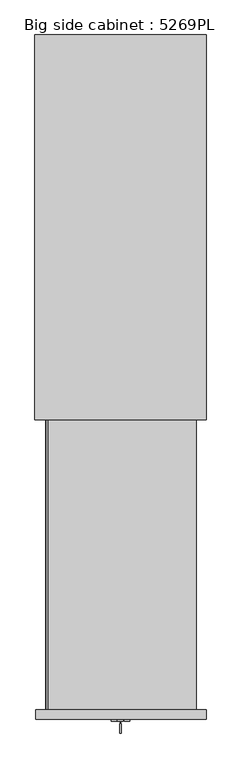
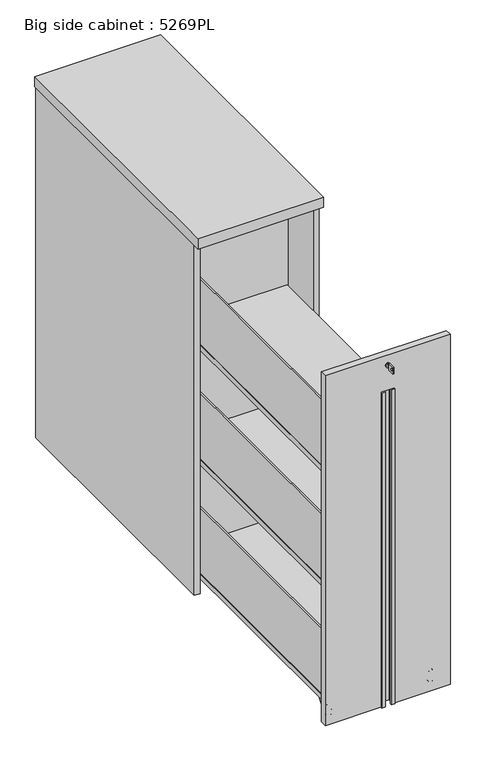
"""IFC4 building model written with IfcOpenShell, lengths in millimetres: furniture geometry, Big side cabinet : 5269PL."""

from ifc_helpers import new_model, si_unit, point, frame, frame_2d, origin, origin_with_axes, place, context, project, spatial, polyline, circle_curve, ellipse_curve, trimmed, segment, composite_curve, outline, extrude, source, transform, mapped, element, save
from ifc_brep_helpers import plane_surface, cylinder_surface, revolved_surface, advanced_brep


def big_side_cabinet_5269pl_a9c0dff1(model_context):
    return source(origin(), model_context, "Body", "SolidModel", [
        extrude(outline(polyline([(1.5783188, 20.1617145), (1.5783188, 10.1617145), (-8.4216812, 10.1617145), (-8.4216812, 20.1617145), (1.5783188, 20.1617145)])), origin_with_axes(), (0.0, 0.0, 1.0), 10.0),
        extrude(outline(polyline([(180.5000002, 898.0), (198.5, 898.0), (198.5, 22.9999769), (180.5000002, 22.9999769), (180.5000002, 898.0)])), frame((0.0, 0.0, 5.0), z_axis=(0.0, 0.0, 1.0), x_axis=(1.0, 0.0, 0.0)), (0.0, 0.0, 1.0), 1180.0),
        extrude(outline(polyline([(-180.5000002, 878.4999997), (-180.5000002, 890.9999997), (180.5000002, 890.9999997), (180.5000002, 878.4999997), (-180.5000002, 878.4999997)])), frame((0.0, 0.0, 5.0), z_axis=(0.0, 0.0, 1.0), x_axis=(1.0, 0.0, 0.0)), (0.0, 0.0, 1.0), 1180.0),
        extrude(outline(polyline([(-180.5000002, 898.0), (-180.5000002, 22.9999769), (-198.5, 22.9999769), (-198.5, 898.0), (-180.5000002, 898.0)])), frame((0.0, 0.0, 5.0), z_axis=(0.0, 0.0, 1.0), x_axis=(1.0, 0.0, 0.0)), (0.0, 0.0, 1.0), 1180.0),
        extrude(outline(polyline([(180.5000002, 70.0000151), (-180.5000002, 70.0000151), (-180.5000002, 838.5000021), (180.5000002, 838.5000021), (180.5000002, 70.0000151)])), frame((0.0, 0.0, 20.0583505), z_axis=(0.0, 0.0, 1.0), x_axis=(1.0, 0.0, 0.0)), (0.0, 0.0, 1.0), 17.9999982),
        extrude(outline(polyline([(200.0, 0.0), (-200.0, 0.0), (-200.0, 900.0), (200.0, 900.0), (200.0, 0.0)])), frame((0.0, 0.0, 1185.0), z_axis=(0.0, 0.0, 1.0), x_axis=(1.0, 0.0, 0.0)), (0.0, 0.0, 1.0), 35.0),
        extrude(outline(composite_curve([segment(trimmed(circle_curve(frame_2d((-160.5000002, 806.0000021)), 20.0), [point((-180.5000002, 806.0000021))], [point((-140.5000002, 806.0000021))], False, "CARTESIAN"), True, "CONTINUOUS"), segment(trimmed(circle_curve(frame_2d((-160.5000002, 806.0000021)), 20.0), [point((-140.5000002, 806.0000021))], [point((-180.5000002, 806.0000021))], False, "CARTESIAN"), True, "CONTINUOUS")], self_intersect=False)), origin_with_axes(), (0.0, 0.0, 1.0), 19.0539492),
        extrude(outline(composite_curve([segment(trimmed(circle_curve(frame_2d((-160.5000002, 98.9999918)), 20.0), [point((-180.5000002, 98.9999918))], [point((-140.5000002, 98.9999918))], False, "CARTESIAN"), True, "CONTINUOUS"), segment(trimmed(circle_curve(frame_2d((-160.5000002, 98.9999918)), 20.0), [point((-140.5000002, 98.9999918))], [point((-180.5000002, 98.9999918))], False, "CARTESIAN"), True, "CONTINUOUS")], self_intersect=False)), origin_with_axes(), (0.0, 0.0, 1.0), 19.0539492),
        extrude(outline(composite_curve([segment(trimmed(circle_curve(frame_2d((160.5000002, 806.0000021)), 20.0), [point((140.5000002, 806.0000021))], [point((180.5000002, 806.0000021))], False, "CARTESIAN"), True, "CONTINUOUS"), segment(trimmed(circle_curve(frame_2d((160.5000002, 806.0000021)), 20.0), [point((180.5000002, 806.0000021))], [point((140.5000002, 806.0000021))], False, "CARTESIAN"), True, "CONTINUOUS")], self_intersect=False)), origin_with_axes(), (0.0, 0.0, 1.0), 19.0539492),
        extrude(outline(composite_curve([segment(trimmed(circle_curve(frame_2d((160.5000002, 98.9999918)), 20.0), [point((140.5000002, 98.9999918))], [point((180.5000002, 98.9999918))], False, "CARTESIAN"), True, "CONTINUOUS"), segment(trimmed(circle_curve(frame_2d((160.5000002, 98.9999918)), 20.0), [point((180.5000002, 98.9999918))], [point((140.5000002, 98.9999918))], False, "CARTESIAN"), True, "CONTINUOUS")], self_intersect=False)), origin_with_axes(), (0.0, 0.0, 1.0), 19.0539492),
        advanced_brep(
        [(155.997354, -648.0000393, 10.5), (158.25, -648.0000393, 12.752646), (158.25, -648.0000393, 29.247354), (155.997354, -648.0000393, 31.5), (155.997354, -648.0000393, 3.0456405), (155.997354, -648.0000393, 38.9543595), (159.0429945, -648.0000393, 0.0), (159.0429945, -648.0000393, 42.0), (162.5, -648.0000393, 0.0), (162.5, -648.0000393, 42.0), (162.5, -648.0000393, 16.75), (162.5, -648.0000393, 25.25), (158.25, -648.0000393, 16.75), (158.25, -648.0000393, 25.25)],
        [
            (0, 1),
            (1, 2, circle_curve(frame((158.25, -648.0000393, 21.0), z_axis=(1.0, 0.0, 0.0), x_axis=(0.0, 0.0, 1.0)), 8.247354)),
            (2, 3),
            (3, 0, circle_curve(frame((155.997354, -648.0000393, 21.0), z_axis=(-1.0, 0.0, 0.0), x_axis=(0.0, 0.0, 1.0)), 10.5)),
            (2, 1, circle_curve(frame((158.25, -648.0000393, 21.0), z_axis=(1.0, 0.0, 0.0), x_axis=(0.0, 0.0, 1.0)), 8.247354)),
            (0, 3, circle_curve(frame((155.997354, -648.0000393, 21.0), z_axis=(-1.0, 0.0, 0.0), x_axis=(0.0, 0.0, 1.0)), 10.5)),
            (4, 0),
            (3, 5),
            (5, 4, circle_curve(frame((155.997354, -648.0000393, 21.0), z_axis=(-1.0, 0.0, 0.0), x_axis=(0.0, 0.0, 1.0)), 17.9543595)),
            (4, 5, circle_curve(frame((155.997354, -648.0000393, 21.0), z_axis=(-1.0, 0.0, 0.0), x_axis=(0.0, 0.0, 1.0)), 17.9543595)),
            (6, 4, circle_curve(frame((159.0429945, -648.0000393, 3.0456405), z_axis=(0.0, 1.0, 0.0), x_axis=(-1.0, 0.0, 0.0)), 3.0456405)),
            (5, 7, circle_curve(frame((159.0429945, -648.0000393, 38.9543595), z_axis=(0.0, 1.0, 0.0), x_axis=(-1.0, 0.0, 0.0)), 3.0456405)),
            (7, 6, circle_curve(frame((159.0429945, -648.0000393, 21.0), z_axis=(-1.0, 0.0, 0.0), x_axis=(0.0, 0.0, 1.0)), 21.0)),
            (6, 7, circle_curve(frame((159.0429945, -648.0000393, 21.0), z_axis=(-1.0, 0.0, 0.0), x_axis=(0.0, 0.0, 1.0)), 21.0)),
            (8, 6),
            (7, 9),
            (9, 8, circle_curve(frame((162.5, -648.0000393, 21.0), z_axis=(-1.0, 0.0, 0.0), x_axis=(0.0, 0.0, 1.0)), 21.0)),
            (8, 9, circle_curve(frame((162.5, -648.0000393, 21.0), z_axis=(-1.0, 0.0, 0.0), x_axis=(0.0, 0.0, 1.0)), 21.0)),
            (10, 8),
            (9, 11),
            (11, 10, circle_curve(frame((162.5, -648.0000393, 21.0), z_axis=(-1.0, 0.0, 0.0), x_axis=(0.0, 0.0, 1.0)), 4.25)),
            (10, 11, circle_curve(frame((162.5, -648.0000393, 21.0), z_axis=(-1.0, 0.0, 0.0), x_axis=(0.0, 0.0, 1.0)), 4.25)),
            (12, 10),
            (11, 13),
            (13, 12, circle_curve(frame((158.25, -648.0000393, 21.0), z_axis=(-1.0, 0.0, 0.0), x_axis=(0.0, 0.0, 1.0)), 4.25)),
            (12, 13, circle_curve(frame((158.25, -648.0000393, 21.0), z_axis=(-1.0, 0.0, 0.0), x_axis=(0.0, 0.0, 1.0)), 4.25)),
            (1, 12),
            (13, 2),
        ],
        [
            revolved_surface(polyline([(158.25, -648.0000393, 29.247354), (155.997354, -648.0000393, 31.5)]), (135.5019942, -648.0000393, 21.0), (1.0, 0.0, 0.0)),
            plane_surface(frame((155.997354, -648.0000393, 21.0), z_axis=(-1.0, 0.0, 0.0), x_axis=(0.0, 0.0, 1.0))),
            revolved_surface(trimmed(ellipse_curve(frame((159.0429945, -648.0000393, 38.9543595), z_axis=(0.0, 1.0, 0.0), x_axis=(-1.0, 0.0, 0.0)), 3.0456405, 3.0456405), [point((155.997354, -648.0000393, 38.9543595))], [point((159.0429945, -648.0000393, 42.0))], True, "CARTESIAN"), (135.5019942, -648.0000393, 21.0), (1.0, 0.0, 0.0)),
            cylinder_surface(frame((135.5019942, -648.0000393, 21.0), z_axis=(1.0, 0.0, 0.0), x_axis=(0.0, 0.0, 1.0)), 21.0),
            plane_surface(frame((162.5, -648.0000393, 21.0), z_axis=(1.0, 0.0, 0.0), x_axis=(0.0, 0.0, 1.0))),
            revolved_surface(polyline([(162.5, -648.0000393, 25.25), (158.25, -648.0000393, 25.25)]), (135.5019942, -648.0000393, 21.0), (1.0, 0.0, 0.0)),
            plane_surface(frame((158.25, -648.0000393, 21.0), z_axis=(-1.0, 0.0, 0.0), x_axis=(0.0, 0.0, 1.0))),
        ],
        [
            (0, [[1, 2, 3, 4]]),
            (0, [[-3, 5, -1, 6]]),
            (1, [[7, -4, 8, 9]]),
            (1, [[-8, -6, -7, 10]]),
            (2, [[11, -9, 12, 13]]),
            (2, [[-12, -10, -11, 14]]),
            (3, [[15, -13, 16, 17]]),
            (3, [[-16, -14, -15, 18]]),
            (4, [[19, -17, 20, 21]]),
            (4, [[-20, -18, -19, 22]]),
            (5, [[23, -21, 24, 25]]),
            (5, [[-24, -22, -23, 26]]),
            (6, [[27, -25, 28, -2]]),
            (6, [[-28, -26, -27, -5]]),
        ],
    ),
        advanced_brep(
        [(174.351441, -648.0000393, 25.0), (174.351441, -648.0000393, 21.0), (174.351441, -648.0000393, 17.0), (169.8769483, -648.0000393, 17.0), (169.8769483, -648.0000393, 25.0)],
        [
            (0, 1),
            (1, 2),
            (2, 0, circle_curve(frame((174.351441, -648.0000393, 21.0), z_axis=(1.0, 0.0, 0.0), x_axis=(0.0, 0.0, -1.0)), 4.0)),
            (0, 2, circle_curve(frame((174.351441, -648.0000393, 21.0), z_axis=(1.0, 0.0, 0.0), x_axis=(0.0, 0.0, -1.0)), 4.0)),
            (2, 3),
            (3, 4, circle_curve(frame((169.8769483, -648.0000393, 21.0), z_axis=(1.0, 0.0, 0.0), x_axis=(0.0, 0.0, -1.0)), 4.0)),
            (4, 0),
            (4, 3, circle_curve(frame((169.8769483, -648.0000393, 21.0), z_axis=(1.0, 0.0, 0.0), x_axis=(0.0, 0.0, -1.0)), 4.0)),
        ],
        [
            plane_surface(frame((174.351441, -648.0000393, 21.0), z_axis=(1.0, 0.0, 0.0), x_axis=(0.0, 0.0, -1.0))),
            cylinder_surface(frame((142.5, -648.0000393, 21.0), z_axis=(-1.0, 0.0, 0.0), x_axis=(0.0, 0.0, -1.0)), 4.0),
            plane_surface(frame((169.8769483, -672.0000393, 46.0), z_axis=(-1.0, 0.0, 0.0), x_axis=(0.0, 1.0, 0.0))),
        ],
        [
            (0, [[1, 2, 3]]),
            (0, [[-1, 4, -2]]),
            (1, [[5, 6, 7, -3]]),
            (1, [[-7, 8, -5, -4]]),
            (2, [[-8, -6]]),
        ],
    ),
        advanced_brep(
        [(150.5708052, -648.0000393, 25.0), (155.0, -648.0000393, 25.0), (155.0, -648.0000393, 17.0), (150.5708052, -648.0000393, 17.0), (150.5708052, -648.0000393, 21.0)],
        [
            (0, 1),
            (1, 2, circle_curve(frame((155.0, -648.0000393, 21.0), z_axis=(-1.0, 0.0, 0.0), x_axis=(0.0, 0.0, -1.0)), 4.0)),
            (2, 3),
            (3, 0, circle_curve(frame((150.5708052, -648.0000393, 21.0), z_axis=(1.0, 0.0, 0.0), x_axis=(0.0, 0.0, -1.0)), 4.0)),
            (2, 1, circle_curve(frame((155.0, -648.0000393, 21.0), z_axis=(-1.0, 0.0, 0.0), x_axis=(0.0, 0.0, -1.0)), 4.0)),
            (0, 3, circle_curve(frame((150.5708052, -648.0000393, 21.0), z_axis=(1.0, 0.0, 0.0), x_axis=(0.0, 0.0, -1.0)), 4.0)),
            (3, 4),
            (4, 0),
        ],
        [
            cylinder_surface(frame((142.5, -648.0000393, 21.0), z_axis=(-1.0, 0.0, 0.0), x_axis=(0.0, 0.0, -1.0)), 4.0),
            plane_surface(frame((150.5708052, -648.0000393, 21.0), z_axis=(-1.0, 0.0, 0.0), x_axis=(0.0, 0.0, -1.0))),
            plane_surface(frame((155.0, -672.0000393, 0.0), z_axis=(1.0, 0.0, 0.0), x_axis=(0.0, 1.0, 0.0))),
        ],
        [
            (0, [[1, 2, 3, 4]]),
            (0, [[-3, 5, -1, 6]]),
            (1, [[7, 8, -4]]),
            (1, [[-8, -7, -6]]),
            (2, [[-5, -2]]),
        ],
    ),
        advanced_brep(
        [(166.75, -648.0000393, 12.752646), (169.002646, -648.0000393, 10.5), (169.002646, -648.0000393, 31.5), (166.75, -648.0000393, 29.247354), (169.002646, -648.0000393, 3.0456405), (169.002646, -648.0000393, 38.9543595), (165.9570055, -648.0000393, 0.0), (165.9570055, -648.0000393, 42.0), (162.5, -648.0000393, 0.0), (162.5, -648.0000393, 42.0), (162.5, -648.0000393, 21.0), (166.75, -648.0000393, 21.0)],
        [
            (0, 1),
            (1, 2, circle_curve(frame((169.002646, -648.0000393, 21.0), z_axis=(1.0, 0.0, 0.0), x_axis=(0.0, 0.0, 1.0)), 10.5)),
            (2, 3),
            (3, 0, circle_curve(frame((166.75, -648.0000393, 21.0), z_axis=(-1.0, 0.0, 0.0), x_axis=(0.0, 0.0, 1.0)), 8.247354)),
            (2, 1, circle_curve(frame((169.002646, -648.0000393, 21.0), z_axis=(1.0, 0.0, 0.0), x_axis=(0.0, 0.0, 1.0)), 10.5)),
            (0, 3, circle_curve(frame((166.75, -648.0000393, 21.0), z_axis=(-1.0, 0.0, 0.0), x_axis=(0.0, 0.0, 1.0)), 8.247354)),
            (1, 4),
            (4, 5, circle_curve(frame((169.002646, -648.0000393, 21.0), z_axis=(1.0, 0.0, 0.0), x_axis=(0.0, 0.0, 1.0)), 17.9543595)),
            (5, 2),
            (5, 4, circle_curve(frame((169.002646, -648.0000393, 21.0), z_axis=(1.0, 0.0, 0.0), x_axis=(0.0, 0.0, 1.0)), 17.9543595)),
            (4, 6, circle_curve(frame((165.9570055, -648.0000393, 3.0456405), z_axis=(0.0, 1.0, 0.0), x_axis=(1.0, 0.0, 0.0)), 3.0456405)),
            (6, 7, circle_curve(frame((165.9570055, -648.0000393, 21.0), z_axis=(1.0, 0.0, 0.0), x_axis=(0.0, 0.0, 1.0)), 21.0)),
            (7, 5, circle_curve(frame((165.9570055, -648.0000393, 38.9543595), z_axis=(0.0, 1.0, 0.0), x_axis=(1.0, 0.0, 0.0)), 3.0456405)),
            (7, 6, circle_curve(frame((165.9570055, -648.0000393, 21.0), z_axis=(1.0, 0.0, 0.0), x_axis=(0.0, 0.0, 1.0)), 21.0)),
            (6, 8),
            (8, 9, circle_curve(frame((162.5, -648.0000393, 21.0), z_axis=(1.0, 0.0, 0.0), x_axis=(0.0, 0.0, 1.0)), 21.0)),
            (9, 7),
            (9, 8, circle_curve(frame((162.5, -648.0000393, 21.0), z_axis=(1.0, 0.0, 0.0), x_axis=(0.0, 0.0, 1.0)), 21.0)),
            (8, 10),
            (10, 9),
            (11, 0),
            (3, 11),
        ],
        [
            revolved_surface(polyline([(169.002646, -648.0000393, 31.5), (166.75, -648.0000393, 29.247354)]), (189.4980058, -648.0000393, 21.0), (1.0, 0.0, 0.0)),
            plane_surface(frame((169.002646, -648.0000393, 21.0), z_axis=(1.0, 0.0, 0.0), x_axis=(0.0, 0.0, 1.0))),
            revolved_surface(trimmed(ellipse_curve(frame((165.9570055, -648.0000393, 38.9543595), z_axis=(0.0, 1.0, 0.0), x_axis=(1.0, 0.0, 0.0)), 3.0456405, 3.0456405), [point((165.9570055, -648.0000393, 42.0))], [point((169.002646, -648.0000393, 38.9543595))], True, "CARTESIAN"), (189.4980058, -648.0000393, 21.0), (1.0, 0.0, 0.0)),
            cylinder_surface(frame((189.4980058, -648.0000393, 21.0), z_axis=(1.0, 0.0, 0.0), x_axis=(0.0, 0.0, 1.0)), 21.0),
            plane_surface(frame((162.5, -648.0000393, 21.0), z_axis=(-1.0, 0.0, 0.0), x_axis=(0.0, 0.0, 1.0))),
            plane_surface(frame((166.75, -648.0000393, 21.0), z_axis=(1.0, 0.0, 0.0), x_axis=(0.0, 0.0, 1.0))),
        ],
        [
            (0, [[1, 2, 3, 4]]),
            (0, [[-3, 5, -1, 6]]),
            (1, [[7, 8, 9, -2]]),
            (1, [[-9, 10, -7, -5]]),
            (2, [[11, 12, 13, -8]]),
            (2, [[-13, 14, -11, -10]]),
            (3, [[15, 16, 17, -12]]),
            (3, [[-17, 18, -15, -14]]),
            (4, [[19, 20, -16]]),
            (4, [[-20, -19, -18]]),
            (5, [[21, -4, 22]]),
            (5, [[-22, -6, -21]]),
        ],
    ),
        advanced_brep(
        [(152.5, -624.0000393, 48.0), (152.5, -624.0000393, 42.0), (152.5, -640.0000393, 21.0), (152.5, -656.0000393, 21.0), (152.5, -672.0000393, 42.0), (152.5, -672.0000393, 48.0), (172.5, -624.0000393, 48.0), (172.5, -672.0000393, 48.0), (172.5, -672.0000393, 42.0), (172.5, -656.0000393, 21.0), (172.5, -640.0000393, 21.0), (172.5, -624.0000393, 42.0), (169.8769483, -656.0000393, 21.0), (169.8769483, -640.0000393, 21.0), (155.0, -640.0000393, 21.0), (155.0, -656.0000393, 21.0), (155.0, -672.0000393, 42.0), (155.0, -672.0000393, 46.0), (169.8769483, -672.0000393, 46.0), (169.8769483, -672.0000393, 42.0), (169.8769483, -624.0000393, 42.0), (169.8769483, -624.0000393, 46.0), (155.0, -624.0000393, 46.0), (155.0, -624.0000393, 42.0)],
        [
            (0, 1),
            (1, 2),
            (2, 3, circle_curve(frame((152.5, -648.0000393, 21.0), z_axis=(-1.0, 0.0, 0.0), x_axis=(0.0, -1.0, 0.0)), 8.0)),
            (3, 4),
            (4, 5),
            (5, 0),
            (6, 7),
            (7, 8),
            (8, 9),
            (9, 10, circle_curve(frame((172.5, -648.0000393, 21.0), z_axis=(1.0, 0.0, 0.0), x_axis=(0.0, -1.0, 0.0)), 8.0)),
            (10, 11),
            (11, 6),
            (5, 7),
            (6, 0),
            (9, 12),
            (12, 13, circle_curve(frame((169.8769483, -648.0000393, 21.0), z_axis=(1.0, 0.0, 0.0), x_axis=(0.0, -1.0, 0.0)), 8.0)),
            (13, 10),
            (2, 14),
            (14, 15, circle_curve(frame((155.0, -648.0000393, 21.0), z_axis=(-1.0, 0.0, 0.0), x_axis=(0.0, -1.0, 0.0)), 8.0)),
            (15, 3),
            (4, 16),
            (16, 17),
            (17, 18),
            (18, 19),
            (19, 8),
            (11, 20),
            (20, 21),
            (21, 22),
            (22, 23),
            (23, 1),
            (17, 22),
            (21, 18),
            (16, 15),
            (14, 23),
            (20, 13),
            (12, 19),
        ],
        [
            plane_surface(frame((152.5, -672.0000393, 48.0), z_axis=(-1.0, 0.0, 0.0), x_axis=(0.0, -1.0, 0.0))),
            plane_surface(frame((172.5, -672.0000393, 48.0), z_axis=(1.0, 0.0, 0.0), x_axis=(0.0, 1.0, 0.0))),
            plane_surface(frame((152.5, -624.0000393, 48.0), z_axis=(0.0, 0.0, 1.0), x_axis=(1.0, 0.0, 0.0))),
            cylinder_surface(frame((172.5, -648.0000393, 21.0), z_axis=(-1.0, 0.0, 0.0), x_axis=(0.0, -1.0, 0.0)), 8.0),
            plane_surface(frame((152.5, -672.0000393, 48.0), z_axis=(0.0, -1.0, 0.0), x_axis=(1.0, 0.0, 0.0))),
            plane_surface(frame((152.5, -624.0000393, 42.0), z_axis=(0.0, 1.0, 0.0), x_axis=(1.0, 0.0, 0.0))),
            plane_surface(frame((155.0, -672.0000393, 46.0), z_axis=(0.0, 0.0, -1.0), x_axis=(0.0, 1.0, 0.0))),
            plane_surface(frame((155.0, -672.0000393, 0.0), z_axis=(1.0, 0.0, 0.0), x_axis=(0.0, 1.0, 0.0))),
            plane_surface(frame((169.8769483, -672.0000393, 46.0), z_axis=(-1.0, 0.0, 0.0), x_axis=(0.0, 1.0, 0.0))),
            plane_surface(frame((152.5, -672.0000393, 42.0), z_axis=(0.0, -0.7954317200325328, -0.6060432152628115), x_axis=(1.0, 0.0, 0.0))),
            plane_surface(frame((152.5, -640.0000393, 21.0), z_axis=(0.0, 0.7954317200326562, -0.6060432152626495), x_axis=(1.0, 0.0, 0.0))),
        ],
        [
            (0, [[1, 2, 3, 4, 5, 6]]),
            (1, [[7, 8, 9, 10, 11, 12]]),
            (2, [[13, -7, 14, -6]]),
            (3, [[15, 16, 17, -10]]),
            (3, [[18, 19, 20, -3]]),
            (4, [[21, 22, 23, 24, 25, -8, -13, -5]]),
            (5, [[-14, -12, 26, 27, 28, 29, 30, -1]]),
            (6, [[-23, 31, -28, 32]]),
            (7, [[-22, 33, -19, 34, -29, -31]]),
            (8, [[-27, 35, -16, 36, -24, -32]]),
            (9, [[-20, -33, -21, -4]]),
            (9, [[-25, -36, -15, -9]]),
            (10, [[-30, -34, -18, -2]]),
            (10, [[-17, -35, -26, -11]]),
        ],
    ),
        extrude(outline(polyline([(-732.0000046, 1139.014113), (-732.0000046, 1161.0), (-710.0000046, 1161.0), (-710.0000046, 1139.014113), (-732.0000046, 1139.014113)]), holes=[composite_curve([segment(trimmed(circle_curve(frame_2d((-725.7500046, 1150.0070565)), 3.2230706), [point((-725.7500046, 1153.2301271))], [point((-725.7500046, 1146.7839859))], True, "CARTESIAN"), True, "CONTINUOUS"), segment(trimmed(circle_curve(frame_2d((-725.7500046, 1150.0070565)), 3.2230706), [point((-725.7500046, 1146.7839859))], [point((-725.7500046, 1153.2301271))], True, "CARTESIAN"), True, "CONTINUOUS")], self_intersect=False)]), frame((-2.0, 0.0, 0.0), z_axis=(1.0, 0.0, 0.0), x_axis=(0.0, 1.0, 0.0)), (0.0, 0.0, 1.0), 4.0416064),
        extrude(outline(polyline([(1.0416064, -710.0000046), (-1.0, -710.0000046), (-1.0, -704.0000046), (1.0416064, -704.0000046), (1.0416064, -710.0000046)])), frame((0.0, 0.0, 1146.014113), z_axis=(0.0, 0.0, 1.0), x_axis=(1.0, 0.0, 0.0)), (0.0, 0.0, 1.0), 7.985887),
        extrude(outline(composite_curve([segment(trimmed(circle_curve(frame_2d((1150.0, 0.0)), 7.0), [point((1150.0, -7.0))], [point((1150.0, 7.0))], False, "CARTESIAN"), True, "CONTINUOUS"), segment(trimmed(circle_curve(frame_2d((1150.0, 0.0)), 7.0), [point((1150.0, 7.0))], [point((1150.0, -7.0))], False, "CARTESIAN"), True, "CONTINUOUS")], self_intersect=False)), frame((0.0, -704.0000046, 0.0), z_axis=(0.0, 1.0, 0.0), x_axis=(0.0, 0.0, 1.0)), (0.0, 0.0, 1.0), 4.0),
        extrude(outline(polyline([(1182.0, 200.0000015), (1182.0, -198.5000015), (5.0, -198.5000015), (5.0, -17.7500067), (1065.0, -17.7500067), (1065.0, 17.7500067), (5.0, 17.7500067), (5.0, 200.0000015), (1182.0, 200.0000015)])), frame((0.0, -700.0000046, 0.0), z_axis=(0.0, 1.0, 0.0), x_axis=(0.0, 0.0, 1.0)), (0.0, 0.0, 1.0), 21.9999653),
        extrude(outline(polyline([(-21.2499929, -704.2058707), (-21.2499929, -700.0000046), (-17.7500067, -700.0000046), (-17.7500067, -678.0000393), (17.7500067, -678.0000393), (17.7500067, -700.0000046), (21.2499929, -700.0000046), (21.2499929, -704.2058707), (9.2499986, -704.2058707), (9.2499986, -698.4780496), (15.9519183, -695.3528931), (15.9519183, -680.3528931), (-15.9519183, -680.3528931), (-15.9519183, -695.3528931), (-9.2499986, -698.4780496), (-9.2499986, -704.2058707), (-21.2499929, -704.2058707)])), frame((0.0, 0.0, 5.0), z_axis=(0.0, 0.0, 1.0), x_axis=(1.0, 0.0, 0.0)), (0.0, 0.0, 1.0), 1060.0),
        extrude(outline(polyline([(-169.8004833, -678.0000046), (-173.7499883, -678.0000046), (-173.7499883, 160.5000143), (-169.8004833, 160.5000143), (-169.8004833, -678.0000046)])), frame((0.0, 0.0, 836.0), z_axis=(0.0, 0.0, 1.0), x_axis=(1.0, 0.0, 0.0)), (0.0, 0.0, 1.0), 220.0),
        extrude(outline(polyline([(-169.8004833, -678.0000046), (-173.7499883, -678.0000046), (-173.7499883, 160.5000143), (-169.8004833, 160.5000143), (-169.8004833, -678.0000046)])), frame((0.0, 0.0, 451.0), z_axis=(0.0, 0.0, 1.0), x_axis=(1.0, 0.0, 0.0)), (0.0, 0.0, 1.0), 220.0),
        extrude(outline(polyline([(-169.8004833, -678.0000046), (-173.7499883, -678.0000046), (-173.7499883, 160.5000143), (-169.8004833, 160.5000143), (-169.8004833, -678.0000046)])), frame((0.0, 0.0, 66.0), z_axis=(0.0, 0.0, 1.0), x_axis=(1.0, 0.0, 0.0)), (0.0, 0.0, 1.0), 220.0),
        advanced_brep(
        [(-155.997354, -648.0000393, 10.5), (-155.997354, -648.0000393, 31.5), (-158.25, -648.0000393, 29.247354), (-158.25, -648.0000393, 12.752646), (-155.997354, -648.0000393, 3.0456405), (-155.997354, -648.0000393, 38.9543595), (-159.0429945, -648.0000393, 0.0), (-159.0429945, -648.0000393, 42.0), (-162.5, -648.0000393, 0.0), (-162.5, -648.0000393, 42.0), (-162.5, -648.0000393, 16.75), (-162.5, -648.0000393, 25.25), (-158.25, -648.0000393, 16.75), (-158.25, -648.0000393, 25.25)],
        [
            (0, 1, circle_curve(frame((-155.997354, -648.0000393, 21.0), z_axis=(1.0, 0.0, 0.0), x_axis=(0.0, 0.0, 1.0)), 10.5)),
            (1, 2),
            (2, 3, circle_curve(frame((-158.25, -648.0000393, 21.0), z_axis=(-1.0, 0.0, 0.0), x_axis=(0.0, 0.0, 1.0)), 8.247354)),
            (3, 0),
            (1, 0, circle_curve(frame((-155.997354, -648.0000393, 21.0), z_axis=(1.0, 0.0, 0.0), x_axis=(0.0, 0.0, 1.0)), 10.5)),
            (3, 2, circle_curve(frame((-158.25, -648.0000393, 21.0), z_axis=(-1.0, 0.0, 0.0), x_axis=(0.0, 0.0, 1.0)), 8.247354)),
            (4, 5, circle_curve(frame((-155.997354, -648.0000393, 21.0), z_axis=(1.0, 0.0, 0.0), x_axis=(0.0, 0.0, 1.0)), 17.9543595)),
            (5, 1),
            (0, 4),
            (5, 4, circle_curve(frame((-155.997354, -648.0000393, 21.0), z_axis=(1.0, 0.0, 0.0), x_axis=(0.0, 0.0, 1.0)), 17.9543595)),
            (6, 7, circle_curve(frame((-159.0429945, -648.0000393, 21.0), z_axis=(1.0, 0.0, 0.0), x_axis=(0.0, 0.0, 1.0)), 21.0)),
            (7, 5, circle_curve(frame((-159.0429945, -648.0000393, 38.9543595), z_axis=(0.0, 1.0, 0.0), x_axis=(1.0, 0.0, 0.0)), 3.0456405)),
            (4, 6, circle_curve(frame((-159.0429945, -648.0000393, 3.0456405), z_axis=(0.0, 1.0, 0.0), x_axis=(1.0, 0.0, 0.0)), 3.0456405)),
            (7, 6, circle_curve(frame((-159.0429945, -648.0000393, 21.0), z_axis=(1.0, 0.0, 0.0), x_axis=(0.0, 0.0, 1.0)), 21.0)),
            (8, 9, circle_curve(frame((-162.5, -648.0000393, 21.0), z_axis=(1.0, 0.0, 0.0), x_axis=(0.0, 0.0, 1.0)), 21.0)),
            (9, 7),
            (6, 8),
            (9, 8, circle_curve(frame((-162.5, -648.0000393, 21.0), z_axis=(1.0, 0.0, 0.0), x_axis=(0.0, 0.0, 1.0)), 21.0)),
            (10, 11, circle_curve(frame((-162.5, -648.0000393, 21.0), z_axis=(1.0, 0.0, 0.0), x_axis=(0.0, 0.0, 1.0)), 4.25)),
            (11, 9),
            (8, 10),
            (11, 10, circle_curve(frame((-162.5, -648.0000393, 21.0), z_axis=(1.0, 0.0, 0.0), x_axis=(0.0, 0.0, 1.0)), 4.25)),
            (12, 13, circle_curve(frame((-158.25, -648.0000393, 21.0), z_axis=(1.0, 0.0, 0.0), x_axis=(0.0, 0.0, 1.0)), 4.25)),
            (13, 11),
            (10, 12),
            (13, 12, circle_curve(frame((-158.25, -648.0000393, 21.0), z_axis=(1.0, 0.0, 0.0), x_axis=(0.0, 0.0, 1.0)), 4.25)),
            (2, 13),
            (12, 3),
        ],
        [
            revolved_surface(polyline([(-158.25, -648.0000393, 29.247354), (-155.997354, -648.0000393, 31.5)]), (-135.5019942, -648.0000393, 21.0), (-1.0, 0.0, 0.0)),
            plane_surface(frame((-155.997354, -648.0000393, 21.0), z_axis=(1.0, 0.0, 0.0), x_axis=(0.0, 0.0, 1.0))),
            revolved_surface(trimmed(ellipse_curve(frame((-159.0429945, -648.0000393, 38.9543595), z_axis=(0.0, -1.0, 0.0), x_axis=(1.0, 0.0, 0.0)), 3.0456405, 3.0456405), [point((-155.997354, -648.0000393, 38.9543595))], [point((-159.0429945, -648.0000393, 42.0))], True, "CARTESIAN"), (-135.5019942, -648.0000393, 21.0), (-1.0, 0.0, 0.0)),
            cylinder_surface(frame((-135.5019942, -648.0000393, 21.0), z_axis=(-1.0, 0.0, 0.0), x_axis=(0.0, 0.0, 1.0)), 21.0),
            plane_surface(frame((-162.5, -648.0000393, 21.0), z_axis=(-1.0, 0.0, 0.0), x_axis=(0.0, 0.0, 1.0))),
            revolved_surface(polyline([(-162.5, -648.0000393, 25.25), (-158.25, -648.0000393, 25.25)]), (-135.5019942, -648.0000393, 21.0), (-1.0, 0.0, 0.0)),
            plane_surface(frame((-158.25, -648.0000393, 21.0), z_axis=(1.0, 0.0, 0.0), x_axis=(0.0, 0.0, 1.0))),
        ],
        [
            (0, [[1, 2, 3, 4]]),
            (0, [[5, -4, 6, -2]]),
            (1, [[7, 8, -1, 9]]),
            (1, [[10, -9, -5, -8]]),
            (2, [[11, 12, -7, 13]]),
            (2, [[14, -13, -10, -12]]),
            (3, [[15, 16, -11, 17]]),
            (3, [[18, -17, -14, -16]]),
            (4, [[19, 20, -15, 21]]),
            (4, [[22, -21, -18, -20]]),
            (5, [[23, 24, -19, 25]]),
            (5, [[26, -25, -22, -24]]),
            (6, [[-3, 27, -23, 28]]),
            (6, [[-6, -28, -26, -27]]),
        ],
    ),
        advanced_brep(
        [(-174.351441, -648.0000393, 25.0), (-174.351441, -648.0000393, 17.0), (-174.351441, -648.0000393, 21.0), (-169.8769483, -648.0000393, 25.0), (-169.8769483, -648.0000393, 17.0)],
        [
            (0, 1, circle_curve(frame((-174.351441, -648.0000393, 21.0), z_axis=(-1.0, 0.0, 0.0), x_axis=(0.0, 0.0, -1.0)), 4.0)),
            (1, 2),
            (2, 0),
            (1, 0, circle_curve(frame((-174.351441, -648.0000393, 21.0), z_axis=(-1.0, 0.0, 0.0), x_axis=(0.0, 0.0, -1.0)), 4.0)),
            (0, 3),
            (3, 4, circle_curve(frame((-169.8769483, -648.0000393, 21.0), z_axis=(-1.0, 0.0, 0.0), x_axis=(0.0, 0.0, -1.0)), 4.0)),
            (4, 1),
            (4, 3, circle_curve(frame((-169.8769483, -648.0000393, 21.0), z_axis=(-1.0, 0.0, 0.0), x_axis=(0.0, 0.0, -1.0)), 4.0)),
        ],
        [
            plane_surface(frame((-174.351441, -648.0000393, 21.0), z_axis=(-1.0, 0.0, 0.0), x_axis=(0.0, 0.0, -1.0))),
            cylinder_surface(frame((-142.5, -648.0000393, 21.0), z_axis=(1.0, 0.0, 0.0), x_axis=(0.0, 0.0, -1.0)), 4.0),
            plane_surface(frame((-169.8769483, -672.0000393, 46.0), z_axis=(1.0, 0.0, 0.0), x_axis=(0.0, 1.0, 0.0))),
        ],
        [
            (0, [[1, 2, 3]]),
            (0, [[-2, 4, -3]]),
            (1, [[-1, 5, 6, 7]]),
            (1, [[-4, -7, 8, -5]]),
            (2, [[-6, -8]]),
        ],
    ),
        advanced_brep(
        [(-150.5708052, -648.0000393, 25.0), (-150.5708052, -648.0000393, 17.0), (-155.0, -648.0000393, 17.0), (-155.0, -648.0000393, 25.0), (-150.5708052, -648.0000393, 21.0)],
        [
            (0, 1, circle_curve(frame((-150.5708052, -648.0000393, 21.0), z_axis=(-1.0, 0.0, 0.0), x_axis=(0.0, 0.0, -1.0)), 4.0)),
            (1, 2),
            (2, 3, circle_curve(frame((-155.0, -648.0000393, 21.0), z_axis=(1.0, 0.0, 0.0), x_axis=(0.0, 0.0, -1.0)), 4.0)),
            (3, 0),
            (1, 0, circle_curve(frame((-150.5708052, -648.0000393, 21.0), z_axis=(-1.0, 0.0, 0.0), x_axis=(0.0, 0.0, -1.0)), 4.0)),
            (3, 2, circle_curve(frame((-155.0, -648.0000393, 21.0), z_axis=(1.0, 0.0, 0.0), x_axis=(0.0, 0.0, -1.0)), 4.0)),
            (0, 4),
            (4, 1),
        ],
        [
            cylinder_surface(frame((-142.5, -648.0000393, 21.0), z_axis=(1.0, 0.0, 0.0), x_axis=(0.0, 0.0, -1.0)), 4.0),
            plane_surface(frame((-150.5708052, -648.0000393, 21.0), z_axis=(1.0, 0.0, 0.0), x_axis=(0.0, 0.0, -1.0))),
            plane_surface(frame((-155.0, -672.0000393, 0.0), z_axis=(-1.0, 0.0, 0.0), x_axis=(0.0, 1.0, 0.0))),
        ],
        [
            (0, [[1, 2, 3, 4]]),
            (0, [[5, -4, 6, -2]]),
            (1, [[-1, 7, 8]]),
            (1, [[-5, -8, -7]]),
            (2, [[-3, -6]]),
        ],
    ),
        advanced_brep(
        [(-166.75, -648.0000393, 12.752646), (-166.75, -648.0000393, 29.247354), (-169.002646, -648.0000393, 31.5), (-169.002646, -648.0000393, 10.5), (-169.002646, -648.0000393, 38.9543595), (-169.002646, -648.0000393, 3.0456405), (-165.9570055, -648.0000393, 42.0), (-165.9570055, -648.0000393, 0.0), (-162.5, -648.0000393, 42.0), (-162.5, -648.0000393, 0.0), (-162.5, -648.0000393, 21.0), (-166.75, -648.0000393, 21.0)],
        [
            (0, 1, circle_curve(frame((-166.75, -648.0000393, 21.0), z_axis=(1.0, 0.0, 0.0), x_axis=(0.0, 0.0, 1.0)), 8.247354)),
            (1, 2),
            (2, 3, circle_curve(frame((-169.002646, -648.0000393, 21.0), z_axis=(-1.0, 0.0, 0.0), x_axis=(0.0, 0.0, 1.0)), 10.5)),
            (3, 0),
            (1, 0, circle_curve(frame((-166.75, -648.0000393, 21.0), z_axis=(1.0, 0.0, 0.0), x_axis=(0.0, 0.0, 1.0)), 8.247354)),
            (3, 2, circle_curve(frame((-169.002646, -648.0000393, 21.0), z_axis=(-1.0, 0.0, 0.0), x_axis=(0.0, 0.0, 1.0)), 10.5)),
            (2, 4),
            (4, 5, circle_curve(frame((-169.002646, -648.0000393, 21.0), z_axis=(-1.0, 0.0, 0.0), x_axis=(0.0, 0.0, 1.0)), 17.9543595)),
            (5, 3),
            (5, 4, circle_curve(frame((-169.002646, -648.0000393, 21.0), z_axis=(-1.0, 0.0, 0.0), x_axis=(0.0, 0.0, 1.0)), 17.9543595)),
            (4, 6, circle_curve(frame((-165.9570055, -648.0000393, 38.9543595), z_axis=(0.0, 1.0, 0.0), x_axis=(-1.0, 0.0, 0.0)), 3.0456405)),
            (6, 7, circle_curve(frame((-165.9570055, -648.0000393, 21.0), z_axis=(-1.0, 0.0, 0.0), x_axis=(0.0, 0.0, 1.0)), 21.0)),
            (7, 5, circle_curve(frame((-165.9570055, -648.0000393, 3.0456405), z_axis=(0.0, 1.0, 0.0), x_axis=(-1.0, 0.0, 0.0)), 3.0456405)),
            (7, 6, circle_curve(frame((-165.9570055, -648.0000393, 21.0), z_axis=(-1.0, 0.0, 0.0), x_axis=(0.0, 0.0, 1.0)), 21.0)),
            (6, 8),
            (8, 9, circle_curve(frame((-162.5, -648.0000393, 21.0), z_axis=(-1.0, 0.0, 0.0), x_axis=(0.0, 0.0, 1.0)), 21.0)),
            (9, 7),
            (9, 8, circle_curve(frame((-162.5, -648.0000393, 21.0), z_axis=(-1.0, 0.0, 0.0), x_axis=(0.0, 0.0, 1.0)), 21.0)),
            (8, 10),
            (10, 9),
            (11, 1),
            (0, 11),
        ],
        [
            revolved_surface(polyline([(-169.002646, -648.0000393, 31.5), (-166.75, -648.0000393, 29.247354)]), (-189.4980058, -648.0000393, 21.0), (-1.0, 0.0, 0.0)),
            plane_surface(frame((-169.002646, -648.0000393, 21.0), z_axis=(-1.0, 0.0, 0.0), x_axis=(0.0, 0.0, 1.0))),
            revolved_surface(trimmed(ellipse_curve(frame((-165.9570055, -648.0000393, 38.9543595), z_axis=(0.0, -1.0, 0.0), x_axis=(-1.0, 0.0, 0.0)), 3.0456405, 3.0456405), [point((-165.9570055, -648.0000393, 42.0))], [point((-169.002646, -648.0000393, 38.9543595))], True, "CARTESIAN"), (-189.4980058, -648.0000393, 21.0), (-1.0, 0.0, 0.0)),
            cylinder_surface(frame((-189.4980058, -648.0000393, 21.0), z_axis=(-1.0, 0.0, 0.0), x_axis=(0.0, 0.0, 1.0)), 21.0),
            plane_surface(frame((-162.5, -648.0000393, 21.0), z_axis=(1.0, 0.0, 0.0), x_axis=(0.0, 0.0, 1.0))),
            plane_surface(frame((-166.75, -648.0000393, 21.0), z_axis=(-1.0, 0.0, 0.0), x_axis=(0.0, 0.0, 1.0))),
        ],
        [
            (0, [[1, 2, 3, 4]]),
            (0, [[5, -4, 6, -2]]),
            (1, [[-3, 7, 8, 9]]),
            (1, [[-6, -9, 10, -7]]),
            (2, [[-8, 11, 12, 13]]),
            (2, [[-10, -13, 14, -11]]),
            (3, [[-12, 15, 16, 17]]),
            (3, [[-14, -17, 18, -15]]),
            (4, [[-16, 19, 20]]),
            (4, [[-18, -20, -19]]),
            (5, [[21, -1, 22]]),
            (5, [[-22, -5, -21]]),
        ],
    ),
        advanced_brep(
        [(-152.5, -624.0000393, 48.0), (-152.5, -672.0000393, 48.0), (-152.5, -672.0000393, 42.0), (-152.5, -656.0000393, 21.0), (-152.5, -640.0000393, 21.0), (-152.5, -624.0000393, 42.0), (-172.5, -624.0000393, 48.0), (-172.5, -624.0000393, 42.0), (-172.5, -640.0000393, 21.0), (-172.5, -656.0000393, 21.0), (-172.5, -672.0000393, 42.0), (-172.5, -672.0000393, 48.0), (-155.0, -656.0000393, 21.0), (-155.0, -640.0000393, 21.0), (-169.8769483, -640.0000393, 21.0), (-169.8769483, -656.0000393, 21.0), (-169.8769483, -672.0000393, 42.0), (-169.8769483, -672.0000393, 46.0), (-155.0, -672.0000393, 46.0), (-155.0, -672.0000393, 42.0), (-155.0, -624.0000393, 42.0), (-155.0, -624.0000393, 46.0), (-169.8769483, -624.0000393, 46.0), (-169.8769483, -624.0000393, 42.0)],
        [
            (0, 1),
            (1, 2),
            (2, 3),
            (3, 4, circle_curve(frame((-152.5, -648.0000393, 21.0), z_axis=(1.0, 0.0, 0.0), x_axis=(0.0, -1.0, 0.0)), 8.0)),
            (4, 5),
            (5, 0),
            (6, 7),
            (7, 8),
            (8, 9, circle_curve(frame((-172.5, -648.0000393, 21.0), z_axis=(-1.0, 0.0, 0.0), x_axis=(0.0, -1.0, 0.0)), 8.0)),
            (9, 10),
            (10, 11),
            (11, 6),
            (0, 6),
            (11, 1),
            (3, 12),
            (12, 13, circle_curve(frame((-155.0, -648.0000393, 21.0), z_axis=(1.0, 0.0, 0.0), x_axis=(0.0, -1.0, 0.0)), 8.0)),
            (13, 4),
            (8, 14),
            (14, 15, circle_curve(frame((-169.8769483, -648.0000393, 21.0), z_axis=(-1.0, 0.0, 0.0), x_axis=(0.0, -1.0, 0.0)), 8.0)),
            (15, 9),
            (10, 16),
            (16, 17),
            (17, 18),
            (18, 19),
            (19, 2),
            (5, 20),
            (20, 21),
            (21, 22),
            (22, 23),
            (23, 7),
            (17, 22),
            (21, 18),
            (20, 13),
            (12, 19),
            (16, 15),
            (14, 23),
        ],
        [
            plane_surface(frame((-152.5, -672.0000393, 48.0), z_axis=(1.0, 0.0, 0.0), x_axis=(0.0, -1.0, 0.0))),
            plane_surface(frame((-172.5, -672.0000393, 48.0), z_axis=(-1.0, 0.0, 0.0), x_axis=(0.0, 1.0, 0.0))),
            plane_surface(frame((-152.5, -624.0000393, 48.0), z_axis=(0.0, 0.0, 1.0), x_axis=(-1.0, 0.0, 0.0))),
            cylinder_surface(frame((-172.5, -648.0000393, 21.0), z_axis=(1.0, 0.0, 0.0), x_axis=(0.0, -1.0, 0.0)), 8.0),
            plane_surface(frame((-152.5, -672.0000393, 48.0), z_axis=(0.0, -1.0, 0.0), x_axis=(-1.0, 0.0, 0.0))),
            plane_surface(frame((-152.5, -624.0000393, 42.0), z_axis=(0.0, 1.0, 0.0), x_axis=(-1.0, 0.0, 0.0))),
            plane_surface(frame((-155.0, -672.0000393, 46.0), z_axis=(0.0, 0.0, -1.0), x_axis=(0.0, 1.0, 0.0))),
            plane_surface(frame((-155.0, -672.0000393, 0.0), z_axis=(-1.0, 0.0, 0.0), x_axis=(0.0, 1.0, 0.0))),
            plane_surface(frame((-169.8769483, -672.0000393, 46.0), z_axis=(1.0, 0.0, 0.0), x_axis=(0.0, 1.0, 0.0))),
            plane_surface(frame((-152.5, -672.0000393, 42.0), z_axis=(0.0, -0.7954317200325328, -0.6060432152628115), x_axis=(-1.0, 0.0, 0.0))),
            plane_surface(frame((-152.5, -640.0000393, 21.0), z_axis=(0.0, 0.7954317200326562, -0.6060432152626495), x_axis=(-1.0, 0.0, 0.0))),
        ],
        [
            (0, [[1, 2, 3, 4, 5, 6]]),
            (1, [[7, 8, 9, 10, 11, 12]]),
            (2, [[-1, 13, -12, 14]]),
            (3, [[-4, 15, 16, 17]]),
            (3, [[-9, 18, 19, 20]]),
            (4, [[-2, -14, -11, 21, 22, 23, 24, 25]]),
            (5, [[-6, 26, 27, 28, 29, 30, -7, -13]]),
            (6, [[31, -28, 32, -23]]),
            (7, [[-32, -27, 33, -16, 34, -24]]),
            (8, [[-31, -22, 35, -19, 36, -29]]),
            (9, [[-3, -25, -34, -15]]),
            (9, [[-10, -20, -35, -21]]),
            (10, [[-5, -17, -33, -26]]),
            (10, [[-8, -30, -36, -18]]),
        ],
    ),
        extrude(outline(polyline([(178.9999867, 160.5000143), (-177.0096218, 160.5000143), (-177.0096218, 178.5000057), (178.9999867, 178.5000057), (178.9999867, 160.5000143)])), frame((0.0, 0.0, 48.0), z_axis=(0.0, 0.0, 1.0), x_axis=(1.0, 0.0, 0.0)), (0.0, 0.0, 1.0), 1017.0),
        extrude(outline(polyline([(-175.0096218, 160.5000143), (176.9999867, 160.5000143), (176.9999867, -678.0000046), (-175.0096218, -678.0000046), (-175.0096218, 160.5000143)])), frame((0.0, 0.0, 818.0), z_axis=(0.0, 0.0, 1.0), x_axis=(1.0, 0.0, 0.0)), (0.0, 0.0, 1.0), 18.0),
        extrude(outline(polyline([(-175.0096218, 160.5000143), (176.9999867, 160.5000143), (176.9999867, -678.0000046), (-175.0096218, -678.0000046), (-175.0096218, 160.5000143)])), frame((0.0, 0.0, 433.0), z_axis=(0.0, 0.0, 1.0), x_axis=(1.0, 0.0, 0.0)), (0.0, 0.0, 1.0), 18.0),
        extrude(outline(polyline([(-175.0096218, 160.5000143), (176.9999867, 160.5000143), (176.9999867, -678.0000046), (-175.0096218, -678.0000046), (-175.0096218, 160.5000143)])), frame((0.0, 0.0, 48.0), z_axis=(0.0, 0.0, 1.0), x_axis=(1.0, 0.0, 0.0)), (0.0, 0.0, 1.0), 18.0),
    ])


if __name__ == "__main__":
    model = new_model("IFC4")
    model_context = context("Model", 3, world=origin())
    ifc_project = project(units=[si_unit("LENGTHUNIT", "METRE", prefix="MILLI")], contexts=[model_context])
    site = spatial("IfcSite", under=ifc_project)
    building = spatial("IfcBuilding", under=site)
    placement = place(None, origin())
    big_side_cabinet_5269pl_shape = big_side_cabinet_5269pl_a9c0dff1(model_context)
    element("IfcFurniture", 1, ObjectType="Big side cabinet : 5269PL", at=placement, inside=building, context=model_context, shape_type="MappedRepresentation", body=[
        mapped(big_side_cabinet_5269pl_shape, transform((0.0, 0.0, 0.0), x_axis=(1.0, 0.0, 0.0), y_axis=(0.0, 1.0, 0.0), z_axis=(0.0, 0.0, 1.0))),
    ])
    save(model, "model.ifc")
